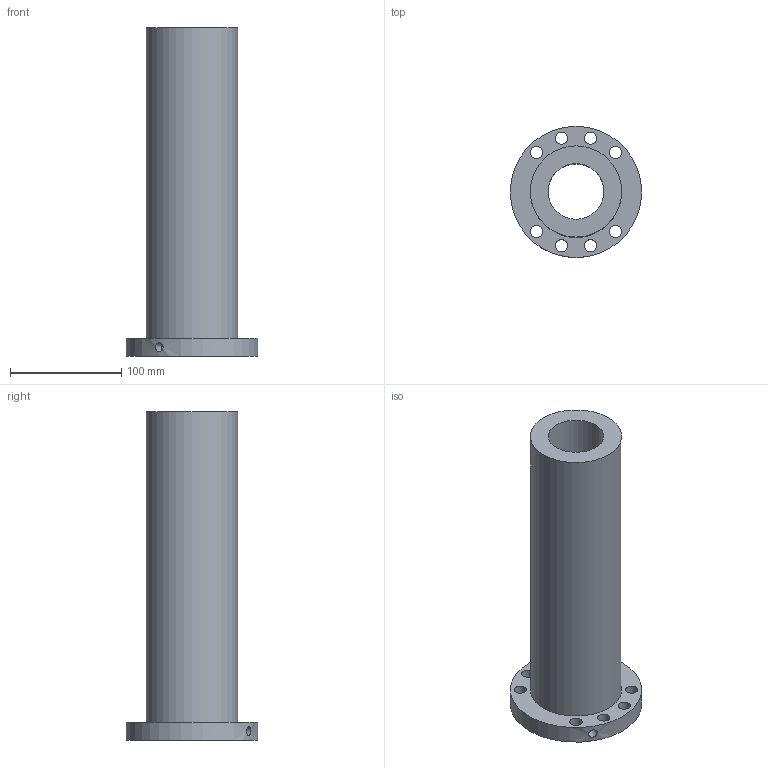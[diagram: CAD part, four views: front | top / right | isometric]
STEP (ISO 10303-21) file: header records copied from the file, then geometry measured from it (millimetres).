
FILE_DESCRIPTION(/* description */ (''),/* implementation_level */ '2;1');
FILE_NAME(/* name */ '50-40K3_635',/* time_stamp */ '2007-10-15T12:53:54+08:00',/* author */ (''),/* organization */ (''),/* preprocessor_version */ 'ST-DEVELOPER v11',/* originating_system */ 'UGS - NX 5.0',/* authorisation */ '');
FILE_SCHEMA (('CONFIG_CONTROL_DESIGN'));
Length unit declared in the file: millimetre
Products named in the file (1): 50-40K3_635
Bounding box: 118 x 118 x 295 mm (x, y, z)
Volume: 1055802.4 mm3; surface area: 145637.9 mm2
Topology: 1 solids, 1 shells, 17 faces, 40 edges, 27 vertices
Faces by surface type: cylinder 13, plane 4
Full cylindrical faces by diameter (mm): 6 x1, 8 x1, 11 x8, 50 x1, 82 x1, 118 x1
Entity records: 668 total; most frequent: CARTESIAN_POINT 184, DIRECTION 84, FACE_BOUND 52, EDGE_LOOP 52, ORIENTED_EDGE 52, AXIS2_PLACEMENT_3D 42, VERTEX_POINT 26, EDGE_CURVE 26
